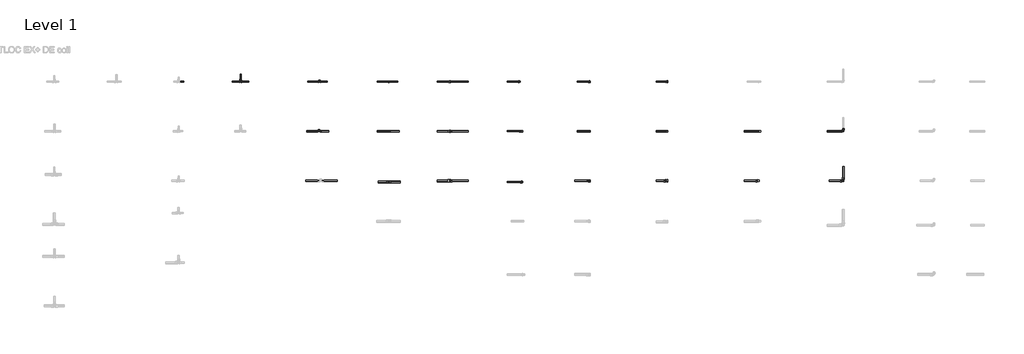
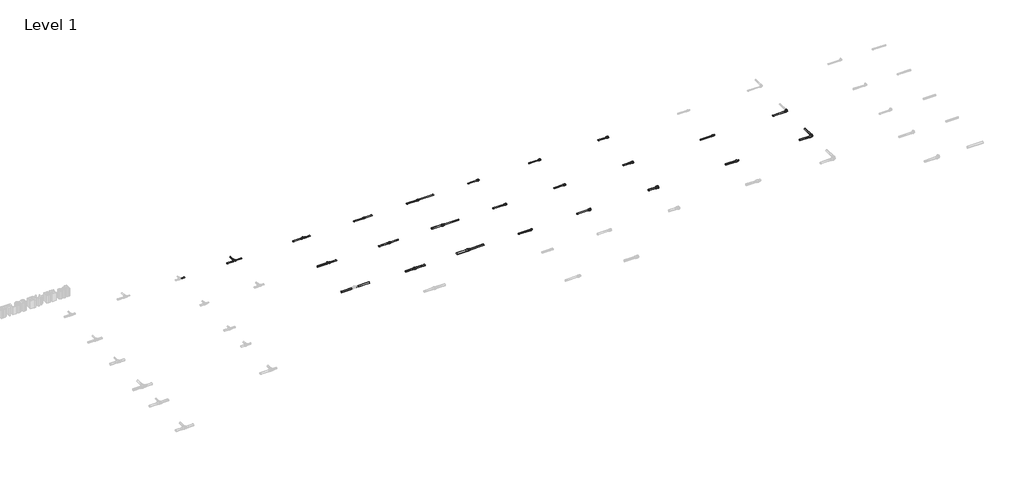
# One storey, part 14 of 16: 36 pipe segments, 22 pipe fittings.
"""IFC4 building model written with IfcOpenShell, lengths in millimetres."""

from ifc_helpers import new_model, si_unit, point, frame, frame_2d, origin, place, context, project, spatial, circle_curve, trimmed, segment, composite_curve, outline, extrude, transform, mapped, element, save
from components import pipe_fitting_3f045704, pipe_fitting_78029988, pipe_fitting_15fe286b, pipe_fitting_1a227808, pipe_fitting_455e7b61, pipe_fitting_29307240, pipe_fitting_fb4eec36, pipe_fitting_127ecf93, pipe_fitting_db3e6b17, pipe_fitting_a2d92617, pipe_fitting_92973462, pipe_fitting_b445dcfe, pipe_fitting_d2a23061, pipe_fitting_f8e3a86c, pipe_fitting_d75665eb, pipe_fitting_43ece0d2, pipe_fitting_f574101e, pipe_fitting_9284d0bf, pipe_fitting_5ce0ec79, pipe_fitting_8e6c19f7, pipe_fitting_622d26cc, pipe_fitting_bacc4522

model = new_model("IFC4")

# Units and contexts
model_context = context("Model", 3, world=origin())
ifc_project = project(units=[si_unit("LENGTHUNIT", "METRE", prefix="MILLI")], contexts=[model_context])

# Site, building, storey
site = spatial("IfcSite", under=ifc_project)
building = spatial("IfcBuilding", under=site)
storey = spatial("IfcBuildingStorey", under=building, Name="Level 1", Elevation=0.0)

# Pipe fittings
placement = place(None, origin())
pipe_fitting_shape = pipe_fitting_3f045704(model_context)
element("IfcPipeFitting", 1, ObjectType="FASTLOC_Adapter_RX+, with external thread : FSL A C external EX+ DE", at=placement, inside=storey, context=model_context, shape_type="MappedRepresentation", body=[
    mapped(pipe_fitting_shape, transform((37445.0524741, 2012.3520033, 0.0), x_axis=(1.0, 0.0, 0.0), y_axis=(0.0, 1.0, 0.0), z_axis=(0.0, 0.0, 1.0))),
])
pipe_fitting_2_shape = pipe_fitting_78029988(model_context)
element("IfcPipeFitting", 2, ObjectType="FASTLOC_T-piece_EX+ : FSL T-Piece EX+ DE", at=placement, inside=storey, context=model_context, shape_type="MappedRepresentation", body=[
    mapped(pipe_fitting_2_shape, transform((32962.9146925, 2012.3520033, 0.0), x_axis=(1.0, 0.0, 0.0), y_axis=(0.0, 1.0, 0.0), z_axis=(0.0, 0.0, 1.0))),
])
pipe_fitting_3_shape = pipe_fitting_15fe286b(model_context)
element("IfcPipeFitting", 3, ObjectType="FASTLOC_T-piece internal thread EX+ : FSL T thread EX+ DE", at=placement, inside=storey, context=model_context, shape_type="MappedRepresentation", body=[
    mapped(pipe_fitting_3_shape, transform((34234.0203333, 2012.3520033, 0.0), x_axis=(1.0, 0.0, 0.0), y_axis=(0.0, 1.0, 0.0), z_axis=(0.0, 0.0, 1.0))),
])
pipe_fitting_4_shape = pipe_fitting_1a227808(model_context)
element("IfcPipeFitting", 4, ObjectType="FASTLOC_Coupling reduced EX+ : FSL C EX+ DE", at=placement, inside=storey, context=model_context, shape_type="MappedRepresentation", body=[
    mapped(pipe_fitting_4_shape, transform((36342.2258143, 412.3520033, 0.0), x_axis=(1.0, 0.0, 0.0), y_axis=(0.0, 1.0, 0.0), z_axis=(0.0, 0.0, 1.0))),
])
pipe_fitting_5_shape = pipe_fitting_455e7b61(model_context)
element("IfcPipeFitting", 5, ObjectType="FASTLOC_Coupling equal EX+ : FSL C EX DE", at=placement, inside=storey, context=model_context, shape_type="MappedRepresentation", body=[
    mapped(pipe_fitting_5_shape, transform((35347.6401575, 2012.3520033, 0.0), x_axis=(1.0, 0.0, 0.0), y_axis=(0.0, 1.0, 0.0), z_axis=(0.0, 0.0, 1.0))),
])
pipe_fitting_6_shape = pipe_fitting_29307240(model_context)
element("IfcPipeFitting", 6, ObjectType="FASTLOC_Adapter_EX+, with internal thread : FSL A internal DE", at=placement, inside=storey, context=model_context, shape_type="MappedRepresentation", body=[
    mapped(pipe_fitting_6_shape, transform((38579.5143796, 2012.3520033, 0.0), x_axis=(1.0, 0.0, 0.0), y_axis=(0.0, 1.0, 0.0), z_axis=(0.0, 0.0, 1.0))),
])
pipe_fitting_7_shape = pipe_fitting_fb4eec36(model_context)
element("IfcPipeFitting", 7, ObjectType="FASTLOC Copper press adapter RX+ : FSL RX+ DE", at=placement, inside=storey, context=model_context, shape_type="MappedRepresentation", body=[
    mapped(pipe_fitting_7_shape, transform((41315.3824015, 1212.3520033, 0.0), x_axis=(1.0, 0.0, 0.0), y_axis=(0.0, 1.0, 0.0), z_axis=(0.0, 0.0, 1.0))),
])
pipe_fitting_8_shape = pipe_fitting_127ecf93(model_context)
element("IfcPipeFitting", 8, ObjectType="FASTLOC Copper press adapter RX+ : FSL RX+ DE", at=placement, inside=storey, context=model_context, shape_type="MappedRepresentation", body=[
    mapped(pipe_fitting_8_shape, transform((41295.3824015, 412.3520033, 0.0), x_axis=(1.0, 0.0, 0.0), y_axis=(0.0, 1.0, 0.0), z_axis=(0.0, 0.0, 1.0))),
])
pipe_fitting_9_shape = pipe_fitting_db3e6b17(model_context)
element("IfcPipeFitting", 9, ObjectType="FASTLOC_Adapter_EX+, with internal thread : FSL A internal DE", at=placement, inside=storey, context=model_context, shape_type="MappedRepresentation", body=[
    mapped(pipe_fitting_9_shape, transform((38579.5143796, 1212.3520033, 0.0), x_axis=(1.0, 0.0, 0.0), y_axis=(0.0, 1.0, 0.0), z_axis=(0.0, 0.0, 1.0))),
])
pipe_fitting_10_shape = pipe_fitting_a2d92617(model_context)
element("IfcPipeFitting", 10, ObjectType="FASTLOC_Adapter_EX+, with internal thread : FSL A internal DE", at=placement, inside=storey, context=model_context, shape_type="MappedRepresentation", body=[
    mapped(pipe_fitting_10_shape, transform((38579.5143796, 412.3520033, 0.0), x_axis=(1.0, 0.0, 0.0), y_axis=(0.0, 1.0, 0.0), z_axis=(0.0, 0.0, 1.0))),
])
pipe_fitting_11_shape = pipe_fitting_92973462(model_context)
element("IfcPipeFitting", 11, ObjectType="FASTLOC_T-piece internal thread EX+ : FSL T thread EX+ DE", at=placement, inside=storey, context=model_context, shape_type="MappedRepresentation", body=[
    mapped(pipe_fitting_11_shape, transform((34223.972973, 1212.3520033, 0.0), x_axis=(1.0, 0.0, 0.0), y_axis=(0.0, 1.0, 0.0), z_axis=(0.0, 0.0, 1.0))),
])
pipe_fitting_12_shape = pipe_fitting_b445dcfe(model_context)
element("IfcPipeFitting", 12, ObjectType="FASTLOC_Coupling reduced EX+ : FSL C EX+ DE", at=placement, inside=storey, context=model_context, shape_type="MappedRepresentation", body=[
    mapped(pipe_fitting_12_shape, transform((36342.2258143, 2012.3520033, 0.0), x_axis=(1.0, 0.0, 0.0), y_axis=(0.0, 1.0, 0.0), z_axis=(0.0, 0.0, 1.0))),
])
pipe_fitting_13_shape = pipe_fitting_d2a23061(model_context)
element("IfcPipeFitting", 13, ObjectType="FASTLOC_Coupling reduced EX+ : FSL C EX+ DE", at=placement, inside=storey, context=model_context, shape_type="MappedRepresentation", body=[
    mapped(pipe_fitting_13_shape, transform((36342.2258143, 1212.3520033, 0.0), x_axis=(1.0, 0.0, 0.0), y_axis=(0.0, 1.0, 0.0), z_axis=(0.0, 0.0, 1.0))),
])
pipe_fitting_14_shape = pipe_fitting_f8e3a86c(model_context)
element("IfcPipeFitting", 14, ObjectType="FASTLOC_Coupling equal EX+ : FSL C EX DE", at=placement, inside=storey, context=model_context, shape_type="MappedRepresentation", body=[
    mapped(pipe_fitting_14_shape, transform((35347.6401575, 1212.3520033, 0.0), x_axis=(1.0, 0.0, 0.0), y_axis=(0.0, 1.0, 0.0), z_axis=(0.0, 0.0, 1.0))),
])
pipe_fitting_15_shape = pipe_fitting_d75665eb(model_context)
element("IfcPipeFitting", 15, ObjectType="FASTLOC_Coupling equal EX+ : FSL C EX DE", at=placement, inside=storey, context=model_context, shape_type="MappedRepresentation", body=[
    mapped(pipe_fitting_15_shape, transform((35347.6401575, 393.645754, 0.0), x_axis=(1.0, 0.0, 0.0), y_axis=(0.0, 1.0, 0.0), z_axis=(0.0, 0.0, 1.0))),
])
pipe_fitting_16_shape = pipe_fitting_43ece0d2(model_context)
element("IfcPipeFitting", 16, ObjectType="FASTLOC_Corner EX+ : FSL C EX+ DE", at=placement, inside=storey, context=model_context, shape_type="MappedRepresentation", body=[
    mapped(pipe_fitting_16_shape, transform((42675.3824015, 1212.3520033, 0.0), x_axis=(1.0, 0.0, 0.0), y_axis=(0.0, 1.0, 0.0), z_axis=(0.0, 0.0, 1.0))),
])
pipe_fitting_17_shape = pipe_fitting_f574101e(model_context)
element("IfcPipeFitting", 17, ObjectType="FASTLOC_Corner EX+ : FSL C EX+ DE", at=placement, inside=storey, context=model_context, shape_type="MappedRepresentation", body=[
    mapped(pipe_fitting_17_shape, transform((42675.3824015, 412.3520033, 0.0), x_axis=(1.0, 0.0, 0.0), y_axis=(0.0, 1.0, 0.0), z_axis=(0.0, 0.0, 1.0))),
])
pipe_fitting_18_shape = pipe_fitting_9284d0bf(model_context)
element("IfcPipeFitting", 18, ObjectType="FASTLOC_Adapter_RX+, with external thread : FSL A C external EX+ DE", at=placement, inside=storey, context=model_context, shape_type="MappedRepresentation", body=[
    mapped(pipe_fitting_18_shape, transform((37480.5062975, 1212.3520033, 0.0), x_axis=(1.0, 0.0, 0.0), y_axis=(0.0, 1.0, 0.0), z_axis=(0.0, 0.0, 1.0))),
])
pipe_fitting_19_shape = pipe_fitting_5ce0ec79(model_context)
element("IfcPipeFitting", 19, ObjectType="FASTLOC_Adapter_RX+, with external thread : FSL A C external EX+ DE", at=placement, inside=storey, context=model_context, shape_type="MappedRepresentation", body=[
    mapped(pipe_fitting_19_shape, transform((37490.6359613, 393.645754, 0.0), x_axis=(1.0, 0.0, 0.0), y_axis=(0.0, 1.0, 0.0), z_axis=(0.0, 0.0, 1.0))),
])
pipe_fitting_20_shape = pipe_fitting_8e6c19f7(model_context)
element("IfcPipeFitting", 20, ObjectType="FASTLOC_Adapter with union nut EX+ : FSL A union nut EX+ DE", at=placement, inside=storey, context=model_context, shape_type="MappedRepresentation", body=[
    mapped(pipe_fitting_20_shape, transform((39818.3503777, 2012.3520033, 0.0), x_axis=(1.0, 0.0, 0.0), y_axis=(0.0, 1.0, 0.0), z_axis=(0.0, 0.0, 1.0))),
])
pipe_fitting_21_shape = pipe_fitting_622d26cc(model_context)
element("IfcPipeFitting", 21, ObjectType="FASTLOC_Adapter with union nut EX+ : FSL A union nut EX+ DE", at=placement, inside=storey, context=model_context, shape_type="MappedRepresentation", body=[
    mapped(pipe_fitting_21_shape, transform((39818.3503777, 1212.3520033, 0.0), x_axis=(1.0, 0.0, 0.0), y_axis=(0.0, 1.0, 0.0), z_axis=(0.0, 0.0, 1.0))),
])
pipe_fitting_22_shape = pipe_fitting_bacc4522(model_context)
element("IfcPipeFitting", 22, ObjectType="FASTLOC_Adapter with union nut EX+ : FSL A union nut EX+ DE", at=placement, inside=storey, context=model_context, shape_type="MappedRepresentation", body=[
    mapped(pipe_fitting_22_shape, transform((39818.3503777, 412.3520033, 0.0), x_axis=(1.0, 0.0, 0.0), y_axis=(0.0, 1.0, 0.0), z_axis=(0.0, 0.0, 1.0))),
])

# Pipe segments
element("IfcPipeSegment", 23, ObjectType="FASTLOC EX+ ML DE coil", at=placement, inside=storey, context=model_context, shape_type="SweptSolid", body=[
    extrude(outline(composite_curve([segment(trimmed(circle_curve(frame_2d((1212.3520033, 0.0)), 10.0), [point((1222.3520033, 0.0))], [point((1212.3520033, -10.0))], False, "CARTESIAN"), True, "CONTINUOUS"), segment(trimmed(circle_curve(frame_2d((1212.3520033, 0.0)), 10.0), [point((1212.3520033, -10.0))], [point((1202.3520033, 0.0))], False, "CARTESIAN"), True, "CONTINUOUS"), segment(trimmed(circle_curve(frame_2d((1212.3520033, 0.0)), 10.0), [point((1202.3520033, 0.0))], [point((1212.3520033, 10.0))], False, "CARTESIAN"), True, "CONTINUOUS"), segment(trimmed(circle_curve(frame_2d((1212.3520033, 0.0)), 10.0), [point((1212.3520033, 10.0))], [point((1222.3520033, 0.0))], False, "CARTESIAN"), True, "CONTINUOUS")], self_intersect=False)), frame((42413.2824015, 0.0, 0.0), z_axis=(1.0, 0.0, 0.0), x_axis=(0.0, 1.0, 0.0)), (0.0, 0.0, 1.0), 237.5),
])
element("IfcPipeSegment", 24, ObjectType="FASTLOC EX+ ML DE coil", at=placement, inside=storey, context=model_context, shape_type="SweptSolid", body=[
    extrude(outline(composite_curve([segment(trimmed(circle_curve(frame_2d((0.0, 42675.3824015)), 12.5), [point((0.0, 42687.8824015))], [point((12.5, 42675.3824015))], False, "CARTESIAN"), True, "CONTINUOUS"), segment(trimmed(circle_curve(frame_2d((0.0, 42675.3824015)), 12.5), [point((12.5, 42675.3824015))], [point((0.0, 42662.8824015))], False, "CARTESIAN"), True, "CONTINUOUS"), segment(trimmed(circle_curve(frame_2d((0.0, 42675.3824015)), 12.5), [point((0.0, 42662.8824015))], [point((-12.5, 42675.3824015))], False, "CARTESIAN"), True, "CONTINUOUS"), segment(trimmed(circle_curve(frame_2d((0.0, 42675.3824015)), 12.5), [point((-12.5, 42675.3824015))], [point((0.0, 42687.8824015))], False, "CARTESIAN"), True, "CONTINUOUS")], self_intersect=False)), frame((0.0, 441.3520033, 0.0), z_axis=(0.0, 1.0, 0.0), x_axis=(0.0, 0.0, 1.0)), (0.0, 0.0, 1.0), 200.0),
])
element("IfcPipeSegment", 25, ObjectType="FASTLOC EX+ ML DE coil", at=placement, inside=storey, context=model_context, shape_type="SweptSolid", body=[
    extrude(outline(composite_curve([segment(trimmed(circle_curve(frame_2d((412.3520033, 0.0)), 12.5), [point((424.8520033, 0.0))], [point((412.3520033, -12.5))], False, "CARTESIAN"), True, "CONTINUOUS"), segment(trimmed(circle_curve(frame_2d((412.3520033, 0.0)), 12.5), [point((412.3520033, -12.5))], [point((399.8520033, 0.0))], False, "CARTESIAN"), True, "CONTINUOUS"), segment(trimmed(circle_curve(frame_2d((412.3520033, 0.0)), 12.5), [point((399.8520033, 0.0))], [point((412.3520033, 12.5))], False, "CARTESIAN"), True, "CONTINUOUS"), segment(trimmed(circle_curve(frame_2d((412.3520033, 0.0)), 12.5), [point((412.3520033, 12.5))], [point((424.8520033, 0.0))], False, "CARTESIAN"), True, "CONTINUOUS")], self_intersect=False)), frame((42446.3824015, 0.0, 0.0), z_axis=(1.0, 0.0, 0.0), x_axis=(0.0, 1.0, 0.0)), (0.0, 0.0, 1.0), 200.0),
])
element("IfcPipeSegment", 26, ObjectType="FASTLOC EX+ ML DE coil", at=placement, inside=storey, context=model_context, shape_type="SweptSolid", body=[
    extrude(outline(composite_curve([segment(trimmed(circle_curve(frame_2d((412.3520033, 0.0)), 12.5), [point((424.8520033, 0.0))], [point((412.3520033, -12.5))], False, "CARTESIAN"), True, "CONTINUOUS"), segment(trimmed(circle_curve(frame_2d((412.3520033, 0.0)), 12.5), [point((412.3520033, -12.5))], [point((399.8520033, 0.0))], False, "CARTESIAN"), True, "CONTINUOUS"), segment(trimmed(circle_curve(frame_2d((412.3520033, 0.0)), 12.5), [point((399.8520033, 0.0))], [point((412.3520033, 12.5))], False, "CARTESIAN"), True, "CONTINUOUS"), segment(trimmed(circle_curve(frame_2d((412.3520033, 0.0)), 12.5), [point((412.3520033, 12.5))], [point((424.8520033, 0.0))], False, "CARTESIAN"), True, "CONTINUOUS")], self_intersect=False)), frame((41082.2824015, 0.0, 0.0), z_axis=(1.0, 0.0, 0.0), x_axis=(0.0, 1.0, 0.0)), (0.0, 0.0, 1.0), 202.5),
])
element("IfcPipeSegment", 27, ObjectType="FASTLOC EX+ ML DE coil", at=placement, inside=storey, context=model_context, shape_type="SweptSolid", body=[
    extrude(outline(composite_curve([segment(trimmed(circle_curve(frame_2d((1212.3520033, 0.0)), 10.0), [point((1222.3520033, 0.0))], [point((1212.3520033, -10.0))], False, "CARTESIAN"), True, "CONTINUOUS"), segment(trimmed(circle_curve(frame_2d((1212.3520033, 0.0)), 10.0), [point((1212.3520033, -10.0))], [point((1202.3520033, 0.0))], False, "CARTESIAN"), True, "CONTINUOUS"), segment(trimmed(circle_curve(frame_2d((1212.3520033, 0.0)), 10.0), [point((1202.3520033, 0.0))], [point((1212.3520033, 10.0))], False, "CARTESIAN"), True, "CONTINUOUS"), segment(trimmed(circle_curve(frame_2d((1212.3520033, 0.0)), 10.0), [point((1212.3520033, 10.0))], [point((1222.3520033, 0.0))], False, "CARTESIAN"), True, "CONTINUOUS")], self_intersect=False)), frame((41082.2824015, 0.0, 0.0), z_axis=(1.0, 0.0, 0.0), x_axis=(0.0, 1.0, 0.0)), (0.0, 0.0, 1.0), 223.9),
])
element("IfcPipeSegment", 28, ObjectType="FASTLOC EX+ ML DE coil", at=placement, inside=storey, context=model_context, shape_type="SweptSolid", body=[
    extrude(outline(composite_curve([segment(trimmed(circle_curve(frame_2d((2012.3520033, 0.0)), 8.0), [point((2020.3520033, 0.0))], [point((2012.3520033, -8.0))], False, "CARTESIAN"), True, "CONTINUOUS"), segment(trimmed(circle_curve(frame_2d((2012.3520033, 0.0)), 8.0), [point((2012.3520033, -8.0))], [point((2004.3520033, 0.0))], False, "CARTESIAN"), True, "CONTINUOUS"), segment(trimmed(circle_curve(frame_2d((2012.3520033, 0.0)), 8.0), [point((2004.3520033, 0.0))], [point((2012.3520033, 8.0))], False, "CARTESIAN"), True, "CONTINUOUS"), segment(trimmed(circle_curve(frame_2d((2012.3520033, 0.0)), 8.0), [point((2012.3520033, 8.0))], [point((2020.3520033, 0.0))], False, "CARTESIAN"), True, "CONTINUOUS")], self_intersect=False)), frame((39659.3503777, 0.0, 0.0), z_axis=(1.0, 0.0, 0.0), x_axis=(0.0, 1.0, 0.0)), (0.0, 0.0, 1.0), 150.0),
])
element("IfcPipeSegment", 29, ObjectType="FASTLOC EX+ ML DE coil", at=placement, inside=storey, context=model_context, shape_type="SweptSolid", body=[
    extrude(outline(composite_curve([segment(trimmed(circle_curve(frame_2d((1212.3520033, 0.0)), 10.0), [point((1222.3520033, 0.0))], [point((1212.3520033, -10.0))], False, "CARTESIAN"), True, "CONTINUOUS"), segment(trimmed(circle_curve(frame_2d((1212.3520033, 0.0)), 10.0), [point((1212.3520033, -10.0))], [point((1202.3520033, 0.0))], False, "CARTESIAN"), True, "CONTINUOUS"), segment(trimmed(circle_curve(frame_2d((1212.3520033, 0.0)), 10.0), [point((1202.3520033, 0.0))], [point((1212.3520033, 10.0))], False, "CARTESIAN"), True, "CONTINUOUS"), segment(trimmed(circle_curve(frame_2d((1212.3520033, 0.0)), 10.0), [point((1212.3520033, 10.0))], [point((1222.3520033, 0.0))], False, "CARTESIAN"), True, "CONTINUOUS")], self_intersect=False)), frame((39659.3503777, 0.0, 0.0), z_axis=(1.0, 0.0, 0.0), x_axis=(0.0, 1.0, 0.0)), (0.0, 0.0, 1.0), 150.0),
])
element("IfcPipeSegment", 30, ObjectType="FASTLOC EX+ ML DE coil", at=placement, inside=storey, context=model_context, shape_type="SweptSolid", body=[
    extrude(outline(composite_curve([segment(trimmed(circle_curve(frame_2d((412.3520033, 0.0)), 12.5), [point((424.8520033, 0.0))], [point((412.3520033, -12.5))], False, "CARTESIAN"), True, "CONTINUOUS"), segment(trimmed(circle_curve(frame_2d((412.3520033, 0.0)), 12.5), [point((412.3520033, -12.5))], [point((399.8520033, 0.0))], False, "CARTESIAN"), True, "CONTINUOUS"), segment(trimmed(circle_curve(frame_2d((412.3520033, 0.0)), 12.5), [point((399.8520033, 0.0))], [point((412.3520033, 12.5))], False, "CARTESIAN"), True, "CONTINUOUS"), segment(trimmed(circle_curve(frame_2d((412.3520033, 0.0)), 12.5), [point((412.3520033, 12.5))], [point((424.8520033, 0.0))], False, "CARTESIAN"), True, "CONTINUOUS")], self_intersect=False)), frame((39659.3503777, 0.0, 0.0), z_axis=(1.0, 0.0, 0.0), x_axis=(0.0, 1.0, 0.0)), (0.0, 0.0, 1.0), 148.7),
])
element("IfcPipeSegment", 31, ObjectType="FASTLOC EX+ ML DE coil", at=placement, inside=storey, context=model_context, shape_type="SweptSolid", body=[
    extrude(outline(composite_curve([segment(trimmed(circle_curve(frame_2d((2012.3520033, 0.0)), 8.0), [point((2020.3520033, 0.0))], [point((2012.3520033, -8.0))], False, "CARTESIAN"), True, "CONTINUOUS"), segment(trimmed(circle_curve(frame_2d((2012.3520033, 0.0)), 8.0), [point((2012.3520033, -8.0))], [point((2004.3520033, 0.0))], False, "CARTESIAN"), True, "CONTINUOUS"), segment(trimmed(circle_curve(frame_2d((2012.3520033, 0.0)), 8.0), [point((2004.3520033, 0.0))], [point((2012.3520033, 8.0))], False, "CARTESIAN"), True, "CONTINUOUS"), segment(trimmed(circle_curve(frame_2d((2012.3520033, 0.0)), 8.0), [point((2012.3520033, 8.0))], [point((2020.3520033, 0.0))], False, "CARTESIAN"), True, "CONTINUOUS")], self_intersect=False)), frame((38387.1143796, 0.0, 0.0), z_axis=(1.0, 0.0, 0.0), x_axis=(0.0, 1.0, 0.0)), (0.0, 0.0, 1.0), 180.0),
])
element("IfcPipeSegment", 32, ObjectType="FASTLOC EX+ ML DE coil", at=placement, inside=storey, context=model_context, shape_type="SweptSolid", body=[
    extrude(outline(composite_curve([segment(trimmed(circle_curve(frame_2d((1212.3520033, 0.0)), 10.0), [point((1222.3520033, 0.0))], [point((1212.3520033, -10.0))], False, "CARTESIAN"), True, "CONTINUOUS"), segment(trimmed(circle_curve(frame_2d((1212.3520033, 0.0)), 10.0), [point((1212.3520033, -10.0))], [point((1202.3520033, 0.0))], False, "CARTESIAN"), True, "CONTINUOUS"), segment(trimmed(circle_curve(frame_2d((1212.3520033, 0.0)), 10.0), [point((1202.3520033, 0.0))], [point((1212.3520033, 10.0))], False, "CARTESIAN"), True, "CONTINUOUS"), segment(trimmed(circle_curve(frame_2d((1212.3520033, 0.0)), 10.0), [point((1212.3520033, 10.0))], [point((1222.3520033, 0.0))], False, "CARTESIAN"), True, "CONTINUOUS")], self_intersect=False)), frame((38387.1143796, 0.0, 0.0), z_axis=(1.0, 0.0, 0.0), x_axis=(0.0, 1.0, 0.0)), (0.0, 0.0, 1.0), 180.7),
])
element("IfcPipeSegment", 33, ObjectType="FASTLOC EX+ ML DE coil", at=placement, inside=storey, context=model_context, shape_type="SweptSolid", body=[
    extrude(outline(composite_curve([segment(trimmed(circle_curve(frame_2d((412.3520033, 0.0)), 10.0), [point((422.3520033, 0.0))], [point((412.3520033, -10.0))], False, "CARTESIAN"), True, "CONTINUOUS"), segment(trimmed(circle_curve(frame_2d((412.3520033, 0.0)), 10.0), [point((412.3520033, -10.0))], [point((402.3520033, 0.0))], False, "CARTESIAN"), True, "CONTINUOUS"), segment(trimmed(circle_curve(frame_2d((412.3520033, 0.0)), 10.0), [point((402.3520033, 0.0))], [point((412.3520033, 10.0))], False, "CARTESIAN"), True, "CONTINUOUS"), segment(trimmed(circle_curve(frame_2d((412.3520033, 0.0)), 10.0), [point((412.3520033, 10.0))], [point((422.3520033, 0.0))], False, "CARTESIAN"), True, "CONTINUOUS")], self_intersect=False)), frame((38346.2143796, 0.0, 0.0), z_axis=(1.0, 0.0, 0.0), x_axis=(0.0, 1.0, 0.0)), (0.0, 0.0, 1.0), 220.0),
])
element("IfcPipeSegment", 34, ObjectType="FASTLOC EX+ ML DE coil", at=placement, inside=storey, context=model_context, shape_type="SweptSolid", body=[
    extrude(outline(composite_curve([segment(trimmed(circle_curve(frame_2d((393.645754, 0.0)), 10.0), [point((403.645754, 0.0))], [point((393.645754, -10.0))], False, "CARTESIAN"), True, "CONTINUOUS"), segment(trimmed(circle_curve(frame_2d((393.645754, 0.0)), 10.0), [point((393.645754, -10.0))], [point((383.645754, 0.0))], False, "CARTESIAN"), True, "CONTINUOUS"), segment(trimmed(circle_curve(frame_2d((393.645754, 0.0)), 10.0), [point((383.645754, 0.0))], [point((393.645754, 10.0))], False, "CARTESIAN"), True, "CONTINUOUS"), segment(trimmed(circle_curve(frame_2d((393.645754, 0.0)), 10.0), [point((393.645754, 10.0))], [point((403.645754, 0.0))], False, "CARTESIAN"), True, "CONTINUOUS")], self_intersect=False)), frame((37261.9359613, 0.0, 0.0), z_axis=(1.0, 0.0, 0.0), x_axis=(0.0, 1.0, 0.0)), (0.0, 0.0, 1.0), 220.0),
])
element("IfcPipeSegment", 35, ObjectType="FASTLOC EX+ ML DE coil", at=placement, inside=storey, context=model_context, shape_type="SweptSolid", body=[
    extrude(outline(composite_curve([segment(trimmed(circle_curve(frame_2d((1212.3520033, 0.0)), 8.0), [point((1220.3520033, 0.0))], [point((1212.3520033, -8.0))], False, "CARTESIAN"), True, "CONTINUOUS"), segment(trimmed(circle_curve(frame_2d((1212.3520033, 0.0)), 8.0), [point((1212.3520033, -8.0))], [point((1204.3520033, 0.0))], False, "CARTESIAN"), True, "CONTINUOUS"), segment(trimmed(circle_curve(frame_2d((1212.3520033, 0.0)), 8.0), [point((1204.3520033, 0.0))], [point((1212.3520033, 8.0))], False, "CARTESIAN"), True, "CONTINUOUS"), segment(trimmed(circle_curve(frame_2d((1212.3520033, 0.0)), 8.0), [point((1212.3520033, 8.0))], [point((1220.3520033, 0.0))], False, "CARTESIAN"), True, "CONTINUOUS")], self_intersect=False)), frame((37261.9359613, 0.0, 0.0), z_axis=(1.0, 0.0, 0.0), x_axis=(0.0, 1.0, 0.0)), (0.0, 0.0, 1.0), 209.6703362),
])
element("IfcPipeSegment", 36, ObjectType="FASTLOC EX+ ML DE coil", at=placement, inside=storey, context=model_context, shape_type="SweptSolid", body=[
    extrude(outline(composite_curve([segment(trimmed(circle_curve(frame_2d((2012.3520033, 0.0)), 8.0), [point((2020.3520033, 0.0))], [point((2012.3520033, -8.0))], False, "CARTESIAN"), True, "CONTINUOUS"), segment(trimmed(circle_curve(frame_2d((2012.3520033, 0.0)), 8.0), [point((2012.3520033, -8.0))], [point((2004.3520033, 0.0))], False, "CARTESIAN"), True, "CONTINUOUS"), segment(trimmed(circle_curve(frame_2d((2012.3520033, 0.0)), 8.0), [point((2004.3520033, 0.0))], [point((2012.3520033, 8.0))], False, "CARTESIAN"), True, "CONTINUOUS"), segment(trimmed(circle_curve(frame_2d((2012.3520033, 0.0)), 8.0), [point((2012.3520033, 8.0))], [point((2020.3520033, 0.0))], False, "CARTESIAN"), True, "CONTINUOUS")], self_intersect=False)), frame((37261.9359613, 0.0, 0.0), z_axis=(1.0, 0.0, 0.0), x_axis=(0.0, 1.0, 0.0)), (0.0, 0.0, 1.0), 174.2165128),
])
element("IfcPipeSegment", 37, ObjectType="FASTLOC EX+ ML DE coil", at=placement, inside=storey, context=model_context, shape_type="SweptSolid", body=[
    extrude(outline(composite_curve([segment(trimmed(circle_curve(frame_2d((2012.3520033, 0.0)), 8.0), [point((2004.3520033, 0.0))], [point((2012.3520033, 8.0))], False, "CARTESIAN"), True, "CONTINUOUS"), segment(trimmed(circle_curve(frame_2d((2012.3520033, 0.0)), 8.0), [point((2012.3520033, 8.0))], [point((2020.3520033, 0.0))], False, "CARTESIAN"), True, "CONTINUOUS"), segment(trimmed(circle_curve(frame_2d((2012.3520033, 0.0)), 8.0), [point((2020.3520033, 0.0))], [point((2012.3520033, -8.0))], False, "CARTESIAN"), True, "CONTINUOUS"), segment(trimmed(circle_curve(frame_2d((2012.3520033, 0.0)), 8.0), [point((2012.3520033, -8.0))], [point((2004.3520033, 0.0))], False, "CARTESIAN"), True, "CONTINUOUS")], self_intersect=False)), frame((35354.8401575, 0.0, 0.0), z_axis=(1.0, 0.0, 0.0), x_axis=(0.0, 1.0, 0.0)), (0.0, 0.0, 1.0), 140.0),
])
element("IfcPipeSegment", 38, ObjectType="FASTLOC EX+ ML DE coil", at=placement, inside=storey, context=model_context, shape_type="SweptSolid", body=[
    extrude(outline(composite_curve([segment(trimmed(circle_curve(frame_2d((2012.3520033, 0.0)), 8.0), [point((2020.3520033, 0.0))], [point((2012.3520033, -8.0))], False, "CARTESIAN"), True, "CONTINUOUS"), segment(trimmed(circle_curve(frame_2d((2012.3520033, 0.0)), 8.0), [point((2012.3520033, -8.0))], [point((2004.3520033, 0.0))], False, "CARTESIAN"), True, "CONTINUOUS"), segment(trimmed(circle_curve(frame_2d((2012.3520033, 0.0)), 8.0), [point((2004.3520033, 0.0))], [point((2012.3520033, 8.0))], False, "CARTESIAN"), True, "CONTINUOUS"), segment(trimmed(circle_curve(frame_2d((2012.3520033, 0.0)), 8.0), [point((2012.3520033, 8.0))], [point((2020.3520033, 0.0))], False, "CARTESIAN"), True, "CONTINUOUS")], self_intersect=False)), frame((35160.4401575, 0.0, 0.0), z_axis=(1.0, 0.0, 0.0), x_axis=(0.0, 1.0, 0.0)), (0.0, 0.0, 1.0), 180.0),
])
element("IfcPipeSegment", 39, ObjectType="FASTLOC EX+ ML DE coil", at=placement, inside=storey, context=model_context, shape_type="SweptSolid", body=[
    extrude(outline(composite_curve([segment(trimmed(circle_curve(frame_2d((1212.3520033, 0.0)), 10.0), [point((1202.3520033, 0.0))], [point((1212.3520033, 10.0))], False, "CARTESIAN"), True, "CONTINUOUS"), segment(trimmed(circle_curve(frame_2d((1212.3520033, 0.0)), 10.0), [point((1212.3520033, 10.0))], [point((1222.3520033, 0.0))], False, "CARTESIAN"), True, "CONTINUOUS"), segment(trimmed(circle_curve(frame_2d((1212.3520033, 0.0)), 10.0), [point((1222.3520033, 0.0))], [point((1212.3520033, -10.0))], False, "CARTESIAN"), True, "CONTINUOUS"), segment(trimmed(circle_curve(frame_2d((1212.3520033, 0.0)), 10.0), [point((1212.3520033, -10.0))], [point((1202.3520033, 0.0))], False, "CARTESIAN"), True, "CONTINUOUS")], self_intersect=False)), frame((35355.0401575, 0.0, 0.0), z_axis=(1.0, 0.0, 0.0), x_axis=(0.0, 1.0, 0.0)), (0.0, 0.0, 1.0), 160.0),
])
element("IfcPipeSegment", 40, ObjectType="FASTLOC EX+ ML DE coil", at=placement, inside=storey, context=model_context, shape_type="SweptSolid", body=[
    extrude(outline(composite_curve([segment(trimmed(circle_curve(frame_2d((1212.3520033, 0.0)), 10.0), [point((1222.3520033, 0.0))], [point((1212.3520033, -10.0))], False, "CARTESIAN"), True, "CONTINUOUS"), segment(trimmed(circle_curve(frame_2d((1212.3520033, 0.0)), 10.0), [point((1212.3520033, -10.0))], [point((1202.3520033, 0.0))], False, "CARTESIAN"), True, "CONTINUOUS"), segment(trimmed(circle_curve(frame_2d((1212.3520033, 0.0)), 10.0), [point((1202.3520033, 0.0))], [point((1212.3520033, 10.0))], False, "CARTESIAN"), True, "CONTINUOUS"), segment(trimmed(circle_curve(frame_2d((1212.3520033, 0.0)), 10.0), [point((1212.3520033, 10.0))], [point((1222.3520033, 0.0))], False, "CARTESIAN"), True, "CONTINUOUS")], self_intersect=False)), frame((35160.4401575, 0.0, 0.0), z_axis=(1.0, 0.0, 0.0), x_axis=(0.0, 1.0, 0.0)), (0.0, 0.0, 1.0), 179.8),
])
element("IfcPipeSegment", 41, ObjectType="FASTLOC EX+ ML DE coil", at=placement, inside=storey, context=model_context, shape_type="SweptSolid", body=[
    extrude(outline(composite_curve([segment(trimmed(circle_curve(frame_2d((393.645754, 0.0)), 12.5), [point((381.145754, 0.0))], [point((393.645754, 12.5))], False, "CARTESIAN"), True, "CONTINUOUS"), segment(trimmed(circle_curve(frame_2d((393.645754, 0.0)), 12.5), [point((393.645754, 12.5))], [point((406.145754, 0.0))], False, "CARTESIAN"), True, "CONTINUOUS"), segment(trimmed(circle_curve(frame_2d((393.645754, 0.0)), 12.5), [point((406.145754, 0.0))], [point((393.645754, -12.5))], False, "CARTESIAN"), True, "CONTINUOUS"), segment(trimmed(circle_curve(frame_2d((393.645754, 0.0)), 12.5), [point((393.645754, -12.5))], [point((381.145754, 0.0))], False, "CARTESIAN"), True, "CONTINUOUS")], self_intersect=False)), frame((35355.6401575, 0.0, 0.0), z_axis=(1.0, 0.0, 0.0), x_axis=(0.0, 1.0, 0.0)), (0.0, 0.0, 1.0), 180.0),
])
element("IfcPipeSegment", 42, ObjectType="FASTLOC EX+ ML DE coil", at=placement, inside=storey, context=model_context, shape_type="SweptSolid", body=[
    extrude(outline(composite_curve([segment(trimmed(circle_curve(frame_2d((393.645754, 0.0)), 12.5), [point((406.145754, 0.0))], [point((393.645754, -12.5))], False, "CARTESIAN"), True, "CONTINUOUS"), segment(trimmed(circle_curve(frame_2d((393.645754, 0.0)), 12.5), [point((393.645754, -12.5))], [point((381.145754, 0.0))], False, "CARTESIAN"), True, "CONTINUOUS"), segment(trimmed(circle_curve(frame_2d((393.645754, 0.0)), 12.5), [point((381.145754, 0.0))], [point((393.645754, 12.5))], False, "CARTESIAN"), True, "CONTINUOUS"), segment(trimmed(circle_curve(frame_2d((393.645754, 0.0)), 12.5), [point((393.645754, 12.5))], [point((406.145754, 0.0))], False, "CARTESIAN"), True, "CONTINUOUS")], self_intersect=False)), frame((35179.6401575, 0.0, 0.0), z_axis=(1.0, 0.0, 0.0), x_axis=(0.0, 1.0, 0.0)), (0.0, 0.0, 1.0), 160.0),
])
element("IfcPipeSegment", 43, ObjectType="FASTLOC EX+ ML DE coil", at=placement, inside=storey, context=model_context, shape_type="SweptSolid", body=[
    extrude(outline(composite_curve([segment(trimmed(circle_curve(frame_2d((412.3520033, 0.0)), 12.5), [point((399.8520033, 0.0))], [point((412.3520033, 12.5))], False, "CARTESIAN"), True, "CONTINUOUS"), segment(trimmed(circle_curve(frame_2d((412.3520033, 0.0)), 12.5), [point((412.3520033, 12.5))], [point((424.8520033, 0.0))], False, "CARTESIAN"), True, "CONTINUOUS"), segment(trimmed(circle_curve(frame_2d((412.3520033, 0.0)), 12.5), [point((424.8520033, 0.0))], [point((412.3520033, -12.5))], False, "CARTESIAN"), True, "CONTINUOUS"), segment(trimmed(circle_curve(frame_2d((412.3520033, 0.0)), 12.5), [point((412.3520033, -12.5))], [point((399.8520033, 0.0))], False, "CARTESIAN"), True, "CONTINUOUS")], self_intersect=False)), frame((34281.6423493, 0.0, 0.0), z_axis=(1.0, 0.0, 0.0), x_axis=(0.0, 1.0, 0.0)), (0.0, 0.0, 1.0), 240.0),
])
element("IfcPipeSegment", 44, ObjectType="FASTLOC EX+ ML DE coil", at=placement, inside=storey, context=model_context, shape_type="SweptSolid", body=[
    extrude(outline(composite_curve([segment(trimmed(circle_curve(frame_2d((412.3520033, 0.0)), 12.5), [point((424.8520033, 0.0))], [point((412.3520033, -12.5))], False, "CARTESIAN"), True, "CONTINUOUS"), segment(trimmed(circle_curve(frame_2d((412.3520033, 0.0)), 12.5), [point((412.3520033, -12.5))], [point((399.8520033, 0.0))], False, "CARTESIAN"), True, "CONTINUOUS"), segment(trimmed(circle_curve(frame_2d((412.3520033, 0.0)), 12.5), [point((399.8520033, 0.0))], [point((412.3520033, 12.5))], False, "CARTESIAN"), True, "CONTINUOUS"), segment(trimmed(circle_curve(frame_2d((412.3520033, 0.0)), 12.5), [point((412.3520033, 12.5))], [point((424.8520033, 0.0))], False, "CARTESIAN"), True, "CONTINUOUS")], self_intersect=False)), frame((34008.2423493, 0.0, 0.0), z_axis=(1.0, 0.0, 0.0), x_axis=(0.0, 1.0, 0.0)), (0.0, 0.0, 1.0), 220.0),
])
element("IfcPipeSegment", 45, ObjectType="FASTLOC EX+ ML DE coil", at=placement, inside=storey, context=model_context, shape_type="SweptSolid", body=[
    extrude(outline(composite_curve([segment(trimmed(circle_curve(frame_2d((1212.3520033, 0.0)), 10.0), [point((1202.3520033, 0.0))], [point((1212.3520033, 10.0))], False, "CARTESIAN"), True, "CONTINUOUS"), segment(trimmed(circle_curve(frame_2d((1212.3520033, 0.0)), 10.0), [point((1212.3520033, 10.0))], [point((1222.3520033, 0.0))], False, "CARTESIAN"), True, "CONTINUOUS"), segment(trimmed(circle_curve(frame_2d((1212.3520033, 0.0)), 10.0), [point((1222.3520033, 0.0))], [point((1212.3520033, -10.0))], False, "CARTESIAN"), True, "CONTINUOUS"), segment(trimmed(circle_curve(frame_2d((1212.3520033, 0.0)), 10.0), [point((1212.3520033, -10.0))], [point((1202.3520033, 0.0))], False, "CARTESIAN"), True, "CONTINUOUS")], self_intersect=False)), frame((34246.472973, 0.0, 0.0), z_axis=(1.0, 0.0, 0.0), x_axis=(0.0, 1.0, 0.0)), (0.0, 0.0, 1.0), 135.0),
])
element("IfcPipeSegment", 46, ObjectType="FASTLOC EX+ ML DE coil", at=placement, inside=storey, context=model_context, shape_type="SweptSolid", body=[
    extrude(outline(composite_curve([segment(trimmed(circle_curve(frame_2d((1212.3520033, 0.0)), 10.0), [point((1222.3520033, 0.0))], [point((1212.3520033, -10.0))], False, "CARTESIAN"), True, "CONTINUOUS"), segment(trimmed(circle_curve(frame_2d((1212.3520033, 0.0)), 10.0), [point((1212.3520033, -10.0))], [point((1202.3520033, 0.0))], False, "CARTESIAN"), True, "CONTINUOUS"), segment(trimmed(circle_curve(frame_2d((1212.3520033, 0.0)), 10.0), [point((1202.3520033, 0.0))], [point((1212.3520033, 10.0))], False, "CARTESIAN"), True, "CONTINUOUS"), segment(trimmed(circle_curve(frame_2d((1212.3520033, 0.0)), 10.0), [point((1212.3520033, 10.0))], [point((1222.3520033, 0.0))], False, "CARTESIAN"), True, "CONTINUOUS")], self_intersect=False)), frame((34031.472973, 0.0, 0.0), z_axis=(1.0, 0.0, 0.0), x_axis=(0.0, 1.0, 0.0)), (0.0, 0.0, 1.0), 170.0),
])
element("IfcPipeSegment", 47, ObjectType="FASTLOC EX+ ML DE coil", at=placement, inside=storey, context=model_context, shape_type="SweptSolid", body=[
    extrude(outline(composite_curve([segment(trimmed(circle_curve(frame_2d((2012.3520033, 0.0)), 8.0), [point((2004.3520033, 0.0))], [point((2012.3520033, 8.0))], False, "CARTESIAN"), True, "CONTINUOUS"), segment(trimmed(circle_curve(frame_2d((2012.3520033, 0.0)), 8.0), [point((2012.3520033, 8.0))], [point((2020.3520033, 0.0))], False, "CARTESIAN"), True, "CONTINUOUS"), segment(trimmed(circle_curve(frame_2d((2012.3520033, 0.0)), 8.0), [point((2020.3520033, 0.0))], [point((2012.3520033, -8.0))], False, "CARTESIAN"), True, "CONTINUOUS"), segment(trimmed(circle_curve(frame_2d((2012.3520033, 0.0)), 8.0), [point((2012.3520033, -8.0))], [point((2004.3520033, 0.0))], False, "CARTESIAN"), True, "CONTINUOUS")], self_intersect=False)), frame((34256.0203333, 0.0, 0.0), z_axis=(1.0, 0.0, 0.0), x_axis=(0.0, 1.0, 0.0)), (0.0, 0.0, 1.0), 100.0),
])
element("IfcPipeSegment", 48, ObjectType="FASTLOC EX+ ML DE coil", at=placement, inside=storey, context=model_context, shape_type="SweptSolid", body=[
    extrude(outline(composite_curve([segment(trimmed(circle_curve(frame_2d((2012.3520033, 0.0)), 8.0), [point((2020.3520033, 0.0))], [point((2012.3520033, -8.0))], False, "CARTESIAN"), True, "CONTINUOUS"), segment(trimmed(circle_curve(frame_2d((2012.3520033, 0.0)), 8.0), [point((2012.3520033, -8.0))], [point((2004.3520033, 0.0))], False, "CARTESIAN"), True, "CONTINUOUS"), segment(trimmed(circle_curve(frame_2d((2012.3520033, 0.0)), 8.0), [point((2004.3520033, 0.0))], [point((2012.3520033, 8.0))], False, "CARTESIAN"), True, "CONTINUOUS"), segment(trimmed(circle_curve(frame_2d((2012.3520033, 0.0)), 8.0), [point((2012.3520033, 8.0))], [point((2020.3520033, 0.0))], False, "CARTESIAN"), True, "CONTINUOUS")], self_intersect=False)), frame((34042.0203333, 0.0, 0.0), z_axis=(1.0, 0.0, 0.0), x_axis=(0.0, 1.0, 0.0)), (0.0, 0.0, 1.0), 170.0),
])
element("IfcPipeSegment", 49, ObjectType="FASTLOC EX+ ML DE coil", at=placement, inside=storey, context=model_context, shape_type="SweptSolid", body=[
    extrude(outline(composite_curve([segment(trimmed(circle_curve(frame_2d((2012.3520033, 0.0)), 8.0), [point((2004.3520033, 0.0))], [point((2012.3520033, 8.0))], False, "CARTESIAN"), True, "CONTINUOUS"), segment(trimmed(circle_curve(frame_2d((2012.3520033, 0.0)), 8.0), [point((2012.3520033, 8.0))], [point((2020.3520033, 0.0))], False, "CARTESIAN"), True, "CONTINUOUS"), segment(trimmed(circle_curve(frame_2d((2012.3520033, 0.0)), 8.0), [point((2020.3520033, 0.0))], [point((2012.3520033, -8.0))], False, "CARTESIAN"), True, "CONTINUOUS"), segment(trimmed(circle_curve(frame_2d((2012.3520033, 0.0)), 8.0), [point((2012.3520033, -8.0))], [point((2004.3520033, 0.0))], False, "CARTESIAN"), True, "CONTINUOUS")], self_intersect=False)), frame((32979.8146925, 0.0, 0.0), z_axis=(1.0, 0.0, 0.0), x_axis=(0.0, 1.0, 0.0)), (0.0, 0.0, 1.0), 115.34),
])
element("IfcPipeSegment", 50, ObjectType="FASTLOC EX+ ML DE coil", at=placement, inside=storey, context=model_context, shape_type="SweptSolid", body=[
    extrude(outline(composite_curve([segment(trimmed(circle_curve(frame_2d((2012.3520033, 0.0)), 8.0), [point((2020.3520033, 0.0))], [point((2012.3520033, -8.0))], False, "CARTESIAN"), True, "CONTINUOUS"), segment(trimmed(circle_curve(frame_2d((2012.3520033, 0.0)), 8.0), [point((2012.3520033, -8.0))], [point((2004.3520033, 0.0))], False, "CARTESIAN"), True, "CONTINUOUS"), segment(trimmed(circle_curve(frame_2d((2012.3520033, 0.0)), 8.0), [point((2004.3520033, 0.0))], [point((2012.3520033, 8.0))], False, "CARTESIAN"), True, "CONTINUOUS"), segment(trimmed(circle_curve(frame_2d((2012.3520033, 0.0)), 8.0), [point((2012.3520033, 8.0))], [point((2020.3520033, 0.0))], False, "CARTESIAN"), True, "CONTINUOUS")], self_intersect=False)), frame((32826.0146925, 0.0, 0.0), z_axis=(1.0, 0.0, 0.0), x_axis=(0.0, 1.0, 0.0)), (0.0, 0.0, 1.0), 120.0),
])
element("IfcPipeSegment", 51, ObjectType="FASTLOC EX+ ML DE coil", at=placement, inside=storey, context=model_context, shape_type="SweptSolid", body=[
    extrude(outline(composite_curve([segment(trimmed(circle_curve(frame_2d((0.0, 32962.9146925)), 10.0), [point((0.0, 32972.9146925))], [point((10.0, 32962.9146925))], False, "CARTESIAN"), True, "CONTINUOUS"), segment(trimmed(circle_curve(frame_2d((0.0, 32962.9146925)), 10.0), [point((10.0, 32962.9146925))], [point((0.0, 32952.9146925))], False, "CARTESIAN"), True, "CONTINUOUS"), segment(trimmed(circle_curve(frame_2d((0.0, 32962.9146925)), 10.0), [point((0.0, 32952.9146925))], [point((-10.0, 32962.9146925))], False, "CARTESIAN"), True, "CONTINUOUS"), segment(trimmed(circle_curve(frame_2d((0.0, 32962.9146925)), 10.0), [point((-10.0, 32962.9146925))], [point((0.0, 32972.9146925))], False, "CARTESIAN"), True, "CONTINUOUS")], self_intersect=False)), frame((0.0, 2034.6520033, 0.0), z_axis=(0.0, 1.0, 0.0), x_axis=(0.0, 0.0, 1.0)), (0.0, 0.0, 1.0), 100.0),
])
element("IfcPipeSegment", 52, ObjectType="FASTLOC EX+ ML DE coil", at=placement, inside=storey, context=model_context, shape_type="SweptSolid", body=[
    extrude(outline(composite_curve([segment(trimmed(circle_curve(frame_2d((2012.3520033, 0.0)), 8.0), [point((2004.3520033, 0.0))], [point((2012.3520033, 8.0))], False, "CARTESIAN"), True, "CONTINUOUS"), segment(trimmed(circle_curve(frame_2d((2012.3520033, 0.0)), 8.0), [point((2012.3520033, 8.0))], [point((2020.3520033, 0.0))], False, "CARTESIAN"), True, "CONTINUOUS"), segment(trimmed(circle_curve(frame_2d((2012.3520033, 0.0)), 8.0), [point((2020.3520033, 0.0))], [point((2012.3520033, -8.0))], False, "CARTESIAN"), True, "CONTINUOUS"), segment(trimmed(circle_curve(frame_2d((2012.3520033, 0.0)), 8.0), [point((2012.3520033, -8.0))], [point((2004.3520033, 0.0))], False, "CARTESIAN"), True, "CONTINUOUS")], self_intersect=False)), frame((31978.0146925, 0.0, 0.0), z_axis=(1.0, 0.0, 0.0), x_axis=(0.0, 1.0, 0.0)), (0.0, 0.0, 1.0), 65.0),
])
element("IfcPipeSegment", 53, ObjectType="FASTLOC EX+ ML DE coil", at=placement, inside=storey, context=model_context, shape_type="SweptSolid", body=[
    extrude(outline(composite_curve([segment(trimmed(circle_curve(frame_2d((2012.3520033, 0.0)), 8.0), [point((2004.3520033, 0.0))], [point((2012.3520033, 8.0))], False, "CARTESIAN"), True, "CONTINUOUS"), segment(trimmed(circle_curve(frame_2d((2012.3520033, 0.0)), 8.0), [point((2012.3520033, 8.0))], [point((2020.3520033, 0.0))], False, "CARTESIAN"), True, "CONTINUOUS"), segment(trimmed(circle_curve(frame_2d((2012.3520033, 0.0)), 8.0), [point((2020.3520033, 0.0))], [point((2012.3520033, -8.0))], False, "CARTESIAN"), True, "CONTINUOUS"), segment(trimmed(circle_curve(frame_2d((2012.3520033, 0.0)), 8.0), [point((2012.3520033, -8.0))], [point((2004.3520033, 0.0))], False, "CARTESIAN"), True, "CONTINUOUS")], self_intersect=False)), frame((36348.5258143, 0.0, 0.0), z_axis=(1.0, 0.0, 0.0), x_axis=(0.0, 1.0, 0.0)), (0.0, 0.0, 1.0), 280.0),
])
element("IfcPipeSegment", 54, ObjectType="FASTLOC EX+ ML DE coil", at=placement, inside=storey, context=model_context, shape_type="SweptSolid", body=[
    extrude(outline(composite_curve([segment(trimmed(circle_curve(frame_2d((2012.3520033, 0.0)), 10.0), [point((2022.3520033, 0.0))], [point((2012.3520033, -10.0))], False, "CARTESIAN"), True, "CONTINUOUS"), segment(trimmed(circle_curve(frame_2d((2012.3520033, 0.0)), 10.0), [point((2012.3520033, -10.0))], [point((2002.3520033, 0.0))], False, "CARTESIAN"), True, "CONTINUOUS"), segment(trimmed(circle_curve(frame_2d((2012.3520033, 0.0)), 10.0), [point((2002.3520033, 0.0))], [point((2012.3520033, 10.0))], False, "CARTESIAN"), True, "CONTINUOUS"), segment(trimmed(circle_curve(frame_2d((2012.3520033, 0.0)), 10.0), [point((2012.3520033, 10.0))], [point((2022.3520033, 0.0))], False, "CARTESIAN"), True, "CONTINUOUS")], self_intersect=False)), frame((36133.5258143, 0.0, 0.0), z_axis=(1.0, 0.0, 0.0), x_axis=(0.0, 1.0, 0.0)), (0.0, 0.0, 1.0), 200.0),
])
element("IfcPipeSegment", 55, ObjectType="FASTLOC EX+ ML DE coil", at=placement, inside=storey, context=model_context, shape_type="SweptSolid", body=[
    extrude(outline(composite_curve([segment(trimmed(circle_curve(frame_2d((1212.3520033, 0.0)), 10.0), [point((1202.3520033, 0.0))], [point((1212.3520033, 10.0))], False, "CARTESIAN"), True, "CONTINUOUS"), segment(trimmed(circle_curve(frame_2d((1212.3520033, 0.0)), 10.0), [point((1212.3520033, 10.0))], [point((1222.3520033, 0.0))], False, "CARTESIAN"), True, "CONTINUOUS"), segment(trimmed(circle_curve(frame_2d((1212.3520033, 0.0)), 10.0), [point((1222.3520033, 0.0))], [point((1212.3520033, -10.0))], False, "CARTESIAN"), True, "CONTINUOUS"), segment(trimmed(circle_curve(frame_2d((1212.3520033, 0.0)), 10.0), [point((1212.3520033, -10.0))], [point((1202.3520033, 0.0))], False, "CARTESIAN"), True, "CONTINUOUS")], self_intersect=False)), frame((36347.9258143, 0.0, 0.0), z_axis=(1.0, 0.0, 0.0), x_axis=(0.0, 1.0, 0.0)), (0.0, 0.0, 1.0), 280.6),
])
element("IfcPipeSegment", 56, ObjectType="FASTLOC EX+ ML DE coil", at=placement, inside=storey, context=model_context, shape_type="SweptSolid", body=[
    extrude(outline(composite_curve([segment(trimmed(circle_curve(frame_2d((1212.3520033, 0.0)), 12.5), [point((1224.8520033, 0.0))], [point((1212.3520033, -12.5))], False, "CARTESIAN"), True, "CONTINUOUS"), segment(trimmed(circle_curve(frame_2d((1212.3520033, 0.0)), 12.5), [point((1212.3520033, -12.5))], [point((1199.8520033, 0.0))], False, "CARTESIAN"), True, "CONTINUOUS"), segment(trimmed(circle_curve(frame_2d((1212.3520033, 0.0)), 12.5), [point((1199.8520033, 0.0))], [point((1212.3520033, 12.5))], False, "CARTESIAN"), True, "CONTINUOUS"), segment(trimmed(circle_curve(frame_2d((1212.3520033, 0.0)), 12.5), [point((1212.3520033, 12.5))], [point((1224.8520033, 0.0))], False, "CARTESIAN"), True, "CONTINUOUS")], self_intersect=False)), frame((36133.5258143, 0.0, 0.0), z_axis=(1.0, 0.0, 0.0), x_axis=(0.0, 1.0, 0.0)), (0.0, 0.0, 1.0), 198.9),
])
element("IfcPipeSegment", 57, ObjectType="FASTLOC EX+ ML DE coil", at=placement, inside=storey, context=model_context, shape_type="SweptSolid", body=[
    extrude(outline(composite_curve([segment(trimmed(circle_curve(frame_2d((412.3520033, 0.0)), 12.5), [point((399.8520033, 0.0))], [point((412.3520033, 12.5))], False, "CARTESIAN"), True, "CONTINUOUS"), segment(trimmed(circle_curve(frame_2d((412.3520033, 0.0)), 12.5), [point((412.3520033, 12.5))], [point((424.8520033, 0.0))], False, "CARTESIAN"), True, "CONTINUOUS"), segment(trimmed(circle_curve(frame_2d((412.3520033, 0.0)), 12.5), [point((424.8520033, 0.0))], [point((412.3520033, -12.5))], False, "CARTESIAN"), True, "CONTINUOUS"), segment(trimmed(circle_curve(frame_2d((412.3520033, 0.0)), 12.5), [point((412.3520033, -12.5))], [point((399.8520033, 0.0))], False, "CARTESIAN"), True, "CONTINUOUS")], self_intersect=False)), frame((36348.0258143, 0.0, 0.0), z_axis=(1.0, 0.0, 0.0), x_axis=(0.0, 1.0, 0.0)), (0.0, 0.0, 1.0), 280.5),
])
element("IfcPipeSegment", 58, ObjectType="FASTLOC EX+ ML DE coil", at=placement, inside=storey, context=model_context, shape_type="SweptSolid", body=[
    extrude(outline(composite_curve([segment(trimmed(circle_curve(frame_2d((412.3520033, 0.0)), 16.0), [point((428.3520033, 0.0))], [point((412.3520033, -16.0))], False, "CARTESIAN"), True, "CONTINUOUS"), segment(trimmed(circle_curve(frame_2d((412.3520033, 0.0)), 16.0), [point((412.3520033, -16.0))], [point((396.3520033, 0.0))], False, "CARTESIAN"), True, "CONTINUOUS"), segment(trimmed(circle_curve(frame_2d((412.3520033, 0.0)), 16.0), [point((396.3520033, 0.0))], [point((412.3520033, 16.0))], False, "CARTESIAN"), True, "CONTINUOUS"), segment(trimmed(circle_curve(frame_2d((412.3520033, 0.0)), 16.0), [point((412.3520033, 16.0))], [point((428.3520033, 0.0))], False, "CARTESIAN"), True, "CONTINUOUS")], self_intersect=False)), frame((36133.5258143, 0.0, 0.0), z_axis=(1.0, 0.0, 0.0), x_axis=(0.0, 1.0, 0.0)), (0.0, 0.0, 1.0), 196.3),
])

save(model, "model.ifc")
